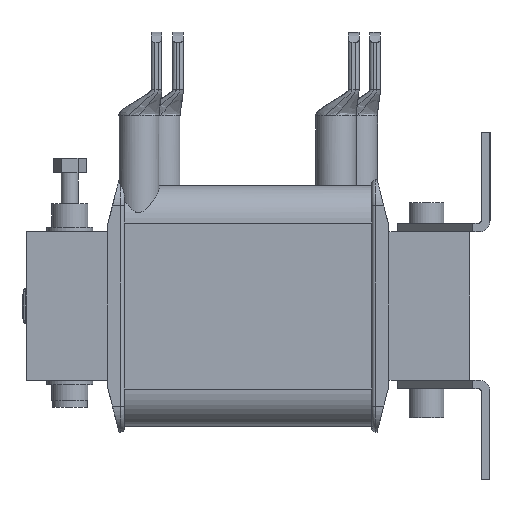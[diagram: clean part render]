
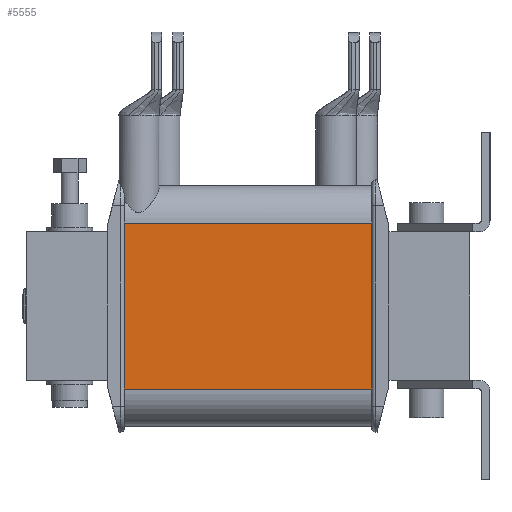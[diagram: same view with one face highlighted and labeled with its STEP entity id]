
A CAD part, left-side view. The second image highlights one B-rep face of the part: STEP entity #5555.
In plain terms, the highlighted planar face has unit normal (-1, 0, 0).
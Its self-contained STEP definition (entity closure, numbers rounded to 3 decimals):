
#463 = VERTEX_POINT ( 'NONE', #3947 ) ;
#639 = DIRECTION ( 'NONE',  ( 0., -1., 0. ) ) ;
#2700 = DIRECTION ( 'NONE',  ( 0., 0., 1. ) ) ;
#3677 = DIRECTION ( 'NONE',  ( 0., 0., -1. ) ) ;
#3722 = EDGE_CURVE ( 'NONE', #10105, #11995, #8685, .T. ) ;
#3947 = CARTESIAN_POINT ( 'NONE',  ( -90., 126.65, 28.75 ) ) ;
#4048 = EDGE_CURVE ( 'NONE', #463, #11995, #9298, .T. ) ;
#4204 = ORIENTED_EDGE ( 'NONE', *, *, #3722, .T. ) ;
#4439 = DIRECTION ( 'NONE',  ( 0., -1., 0. ) ) ;
#5001 = EDGE_CURVE ( 'NONE', #15175, #10105, #10421, .T. ) ;
#5555 = ADVANCED_FACE ( 'NONE', ( #8704 ), #10947, .F. ) ;
#5633 = CARTESIAN_POINT ( 'NONE',  ( -90., 126.65, 28.75 ) ) ;
#6652 = CARTESIAN_POINT ( 'NONE',  ( -90., 126.65, -28.75 ) ) ;
#7652 = DIRECTION ( 'NONE',  ( 0., 0., 1. ) ) ;
#7727 = CARTESIAN_POINT ( 'NONE',  ( -90., 40.95, -28.75 ) ) ;
#8685 = LINE ( 'NONE', #7727, #13110 ) ;
#8704 = FACE_OUTER_BOUND ( 'NONE', #11985, .T. ) ;
#8751 = LINE ( 'NONE', #14963, #9636 ) ;
#9298 = LINE ( 'NONE', #5633, #9840 ) ;
#9636 = VECTOR ( 'NONE', #2700, 1000. ) ;
#9840 = VECTOR ( 'NONE', #4439, 1000. ) ;
#10105 = VERTEX_POINT ( 'NONE', #12769 ) ;
#10276 = CARTESIAN_POINT ( 'NONE',  ( -90., 40.95, 28.75 ) ) ;
#10421 = LINE ( 'NONE', #15267, #12346 ) ;
#10453 = ORIENTED_EDGE ( 'NONE', *, *, #5001, .T. ) ;
#10947 = PLANE ( 'NONE',  #15631 ) ;
#11983 = EDGE_CURVE ( 'NONE', #15175, #463, #8751, .T. ) ;
#11985 = EDGE_LOOP ( 'NONE', ( #4204, #13275, #14301, #10453 ) ) ;
#11995 = VERTEX_POINT ( 'NONE', #10276 ) ;
#12206 = CARTESIAN_POINT ( 'NONE',  ( -90., 126.65, -28.75 ) ) ;
#12346 = VECTOR ( 'NONE', #639, 1000. ) ;
#12448 = DIRECTION ( 'NONE',  ( 1., 0., 0. ) ) ;
#12769 = CARTESIAN_POINT ( 'NONE',  ( -90., 40.95, -28.75 ) ) ;
#13110 = VECTOR ( 'NONE', #7652, 1000. ) ;
#13275 = ORIENTED_EDGE ( 'NONE', *, *, #4048, .F. ) ;
#14301 = ORIENTED_EDGE ( 'NONE', *, *, #11983, .F. ) ;
#14963 = CARTESIAN_POINT ( 'NONE',  ( -90., 126.65, -28.75 ) ) ;
#15175 = VERTEX_POINT ( 'NONE', #6652 ) ;
#15267 = CARTESIAN_POINT ( 'NONE',  ( -90., 126.65, -28.75 ) ) ;
#15631 = AXIS2_PLACEMENT_3D ( 'NONE', #12206, #12448, #3677 ) ;
